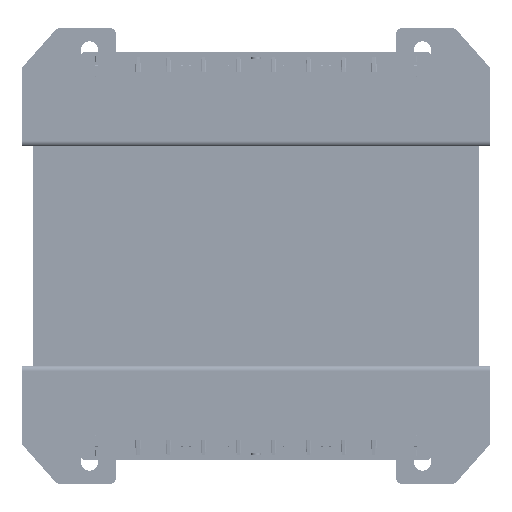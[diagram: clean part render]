
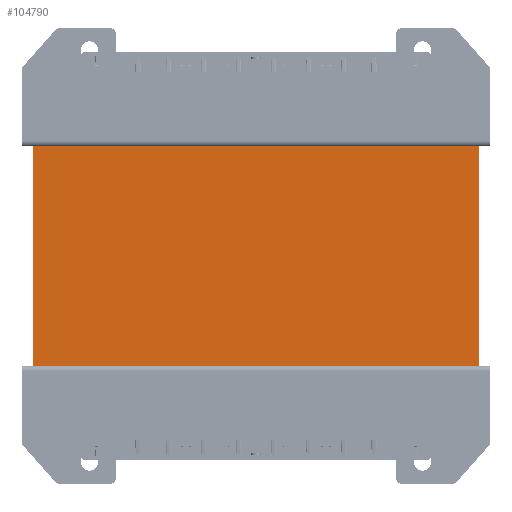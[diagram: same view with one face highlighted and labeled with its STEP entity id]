
A CAD part, front view. The second image highlights one B-rep face of the part: STEP entity #104790.
In plain terms, the highlighted planar face has unit normal (0, -1, 0).
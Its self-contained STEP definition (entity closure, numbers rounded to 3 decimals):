
#2383 = DIRECTION ( 'NONE',  ( 1., 0., 0. ) ) ;
#3676 = VECTOR ( 'NONE', #102566, 1000. ) ;
#4900 = CARTESIAN_POINT ( 'NONE',  ( -76.2, -63.5, 37.5 ) ) ;
#5782 = CARTESIAN_POINT ( 'NONE',  ( 76.2, -63.5, 37.5 ) ) ;
#10844 = VERTEX_POINT ( 'NONE', #94671 ) ;
#10899 = LINE ( 'NONE', #96675, #101372 ) ;
#10929 = EDGE_CURVE ( 'NONE', #71861, #148507, #10899, .T. ) ;
#16648 = PLANE ( 'NONE',  #124989 ) ;
#20010 = CARTESIAN_POINT ( 'NONE',  ( 76.2, -63.5, 37.5 ) ) ;
#21366 = ORIENTED_EDGE ( 'NONE', *, *, #37500, .F. ) ;
#24918 = VERTEX_POINT ( 'NONE', #5782 ) ;
#28488 = DIRECTION ( 'NONE',  ( 0., 0., 1. ) ) ;
#37500 = EDGE_CURVE ( 'NONE', #24918, #148507, #121664, .T. ) ;
#39610 = CARTESIAN_POINT ( 'NONE',  ( 76.2, -63.5, -37.5 ) ) ;
#44602 = EDGE_LOOP ( 'NONE', ( #124032, #21366, #149340, #114648 ) ) ;
#45362 = DIRECTION ( 'NONE',  ( 1., 0., 0. ) ) ;
#57648 = LINE ( 'NONE', #95427, #116771 ) ;
#63552 = DIRECTION ( 'NONE',  ( 0., 1., 0. ) ) ;
#71861 = VERTEX_POINT ( 'NONE', #144214 ) ;
#73787 = FACE_OUTER_BOUND ( 'NONE', #44602, .T. ) ;
#90658 = EDGE_CURVE ( 'NONE', #10844, #24918, #93098, .T. ) ;
#91648 = EDGE_CURVE ( 'NONE', #10844, #71861, #57648, .T. ) ;
#93098 = LINE ( 'NONE', #116086, #120711 ) ;
#94671 = CARTESIAN_POINT ( 'NONE',  ( -76.2, -63.5, 37.5 ) ) ;
#95427 = CARTESIAN_POINT ( 'NONE',  ( -76.2, -63.5, 37.5 ) ) ;
#96675 = CARTESIAN_POINT ( 'NONE',  ( -76.2, -63.5, -37.5 ) ) ;
#101372 = VECTOR ( 'NONE', #2383, 1000. ) ;
#102566 = DIRECTION ( 'NONE',  ( 0., 0., -1. ) ) ;
#104790 = ADVANCED_FACE ( 'NONE', ( #73787 ), #16648, .F. ) ;
#107311 = DIRECTION ( 'NONE',  ( 0., 0., -1. ) ) ;
#114648 = ORIENTED_EDGE ( 'NONE', *, *, #91648, .T. ) ;
#116086 = CARTESIAN_POINT ( 'NONE',  ( -76.2, -63.5, 37.5 ) ) ;
#116771 = VECTOR ( 'NONE', #107311, 1000. ) ;
#120711 = VECTOR ( 'NONE', #45362, 1000. ) ;
#121664 = LINE ( 'NONE', #20010, #3676 ) ;
#124032 = ORIENTED_EDGE ( 'NONE', *, *, #10929, .T. ) ;
#124989 = AXIS2_PLACEMENT_3D ( 'NONE', #4900, #63552, #28488 ) ;
#144214 = CARTESIAN_POINT ( 'NONE',  ( -76.2, -63.5, -37.5 ) ) ;
#148507 = VERTEX_POINT ( 'NONE', #39610 ) ;
#149340 = ORIENTED_EDGE ( 'NONE', *, *, #90658, .F. ) ;
